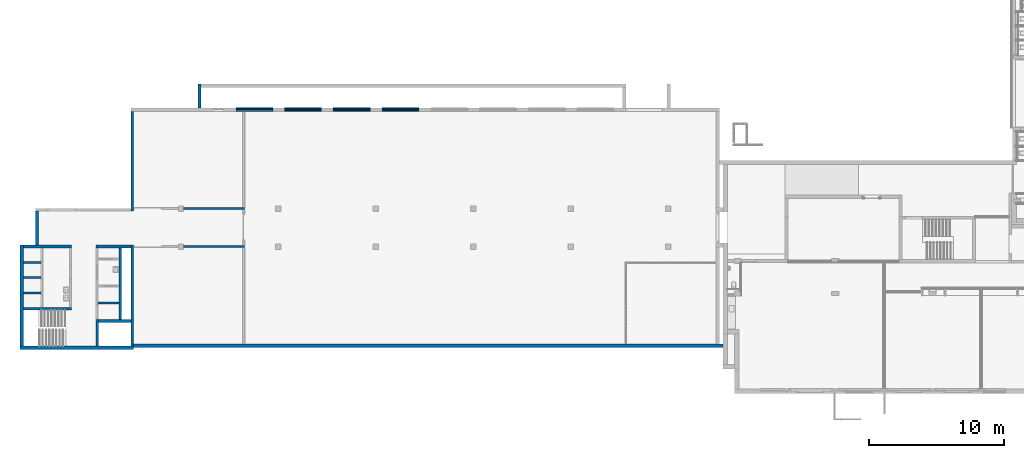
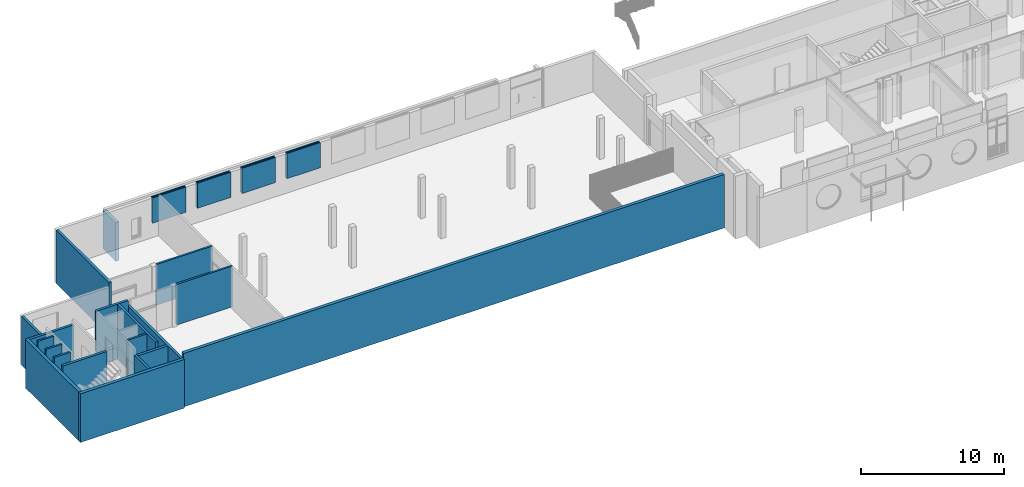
# One storey, part 79 of 135: 27 walls.
"""IFC2X3 building model written with IfcOpenShell, lengths in millimetres."""

from ifc_helpers import new_model, entity, si_unit, converted_unit, derived_unit, money_unit, direction, frame, origin_with_axes, place, context, subcontext, project, spatial, faceted_brep, material, type_object, element, save


model = new_model("IFC2X3")

# Units and contexts
model_context = context("Model", 3, precision=0.01, world=origin_with_axes(), true_north=direction((0.0, 1.0)))
body_context = subcontext(model_context, "Body", "Model", "MODEL_VIEW")
ifc_project = project(units=[si_unit("LENGTHUNIT", "METRE", prefix="MILLI"), si_unit("AREAUNIT", "SQUARE_METRE"), si_unit("VOLUMEUNIT", "CUBIC_METRE"), converted_unit("PLANEANGLEUNIT", "DEGREE", entity("IfcPlaneAngleMeasure", 0.0174532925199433), si_unit("PLANEANGLEUNIT", "RADIAN"), dimensions=[0, 0, 0, 0, 0, 0, 0]), money_unit("EUR"), converted_unit("TIMEUNIT", "Year", entity("IfcTimeMeasure", 31557600.0), si_unit("TIMEUNIT", "SECOND"), dimensions=[0, 0, 1, 0, 0, 0, 0]), si_unit("MASSUNIT", "GRAM", prefix="KILO"), si_unit("THERMODYNAMICTEMPERATUREUNIT", "DEGREE_CELSIUS"), si_unit("LUMINOUSINTENSITYUNIT", "LUMEN"), si_unit("ENERGYUNIT", "JOULE", prefix="MEGA"), derived_unit("THERMALCONDUCTANCEUNIT", [(si_unit("POWERUNIT", "WATT"), 1), (si_unit("LENGTHUNIT", "METRE"), -1), (si_unit("THERMODYNAMICTEMPERATUREUNIT", "KELVIN"), -1)]), derived_unit("SPECIFICHEATCAPACITYUNIT", [(si_unit("ENERGYUNIT", "JOULE"), 1), (si_unit("MASSUNIT", "GRAM", prefix="KILO"), -1), (si_unit("THERMODYNAMICTEMPERATUREUNIT", "KELVIN"), -1)]), derived_unit("MASSDENSITYUNIT", [(si_unit("MASSUNIT", "GRAM", prefix="KILO"), 1), (si_unit("VOLUMEUNIT", "CUBIC_METRE"), -1)])], contexts=[model_context])

# Site, building, storey
site_placement = place(None, origin_with_axes())
site = spatial("IfcSite", under=ifc_project, at=site_placement, Name="Site", CompositionType="ELEMENT")
building_placement = place(site_placement, origin_with_axes())
building = spatial("IfcBuilding", under=site, at=building_placement, Name="Naam gebouw", CompositionType="ELEMENT")
storey_placement = place(building_placement, origin_with_axes())
storey = spatial("IfcBuildingStorey", under=building, at=storey_placement, Name="Begane grond N", CompositionType="ELEMENT", Elevation=0.0)

# Walls
ifc_material_1 = material(Name="ALG - CONSTRUCTIEF")
wall_type_1 = type_object("IfcWallType", Name="ALG - CONSTRUCTIEF 150", PredefinedType="NOTDEFINED")
wall_1_placement = place(storey_placement, frame((-40950.0, 16765.57502437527, 0.0), z_axis=(0.0, 0.0, 1.0), x_axis=(1.0, 0.0, 0.0)))
element("IfcWall", 1, at=wall_1_placement, inside=storey, type_object=wall_type_1, material=ifc_material_1, Name="_Wand-x", context=body_context, shape_type="Brep", body=[
    faceted_brep([(0.0, -74.99999999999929, 3470.0), (4499.999999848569, -74.99999999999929, 3470.0), (4499.999999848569, 74.99999999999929, 3470.0), (0.0, 74.99999999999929, 3470.0), (0.0, -74.99999999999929, 0.0), (4499.999999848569, -74.99999999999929, 0.0), (4499.999999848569, 74.99999999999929, 0.0), (0.0, 74.99999999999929, 0.0)], [[[0, 1, 2, 3]], [[4, 5, 1, 0]], [[6, 2, 1, 5]], [[3, 2, 6, 7]], [[7, 4, 0, 3]], [[7, 6, 5, 4]]]),
])
wall_2_placement = place(storey_placement, frame((-51424.99999999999, 11665.57502436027, -1200.0), z_axis=(0.0, 0.0, 1.0), x_axis=(-1.0, 0.0, 0.0)))
element("IfcWall", 2, at=wall_2_placement, inside=storey, type_object=wall_type_1, material=ifc_material_1, Name="_Wand-x", context=body_context, shape_type="Brep", body=[
    faceted_brep([(1374.999999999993, -74.99999999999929, 0.0), (1374.999999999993, -74.99999999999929, 1000.0), (75.00000000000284, -74.99999999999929, 999.9999999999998), (75.00000000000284, -74.99999999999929, 0.0), (1374.999999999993, 74.99999999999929, 0.0), (1374.999999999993, 74.99999999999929, 1000.0), (75.00000000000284, 74.99999999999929, 1000.0), (75.00000000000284, 74.99999999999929, 0.0)], [[[0, 1, 2, 3]], [[4, 5, 1, 0]], [[5, 6, 2, 1]], [[3, 2, 6, 7]], [[3, 7, 4, 0]], [[7, 6, 5, 4]]]),
    faceted_brep([(75.00000000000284, 75.00000000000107, 4670.000000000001), (75.00000000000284, 74.99999999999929, 1200.0), (75.00000000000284, -74.99999999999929, 1200.0), (75.00000000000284, -74.99999999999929, 4670.0), (1374.999999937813, 75.00000000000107, 4670.0), (1374.999999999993, 74.99999999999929, 1200.0), (1374.999999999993, -74.99999999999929, 1200.0), (1374.99999994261, -74.99999999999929, 4670.0)], [[[0, 1, 2, 3]], [[4, 5, 1, 0]], [[5, 6, 2, 1]], [[3, 2, 6, 7]], [[4, 0, 3, 7]], [[7, 6, 5, 4]]]),
])
wall_3_placement = place(storey_placement, frame((-51424.99999999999, 10528.07502437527, -1200.0), z_axis=(0.0, 0.0, 1.0), x_axis=(-1.0, 0.0, 0.0)))
element("IfcWall", 3, at=wall_3_placement, inside=storey, type_object=wall_type_1, material=ifc_material_1, Name="_Wand-x", context=body_context, shape_type="Brep", body=[
    faceted_brep([(1374.999999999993, -74.99999999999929, 0.0), (1374.999999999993, -74.99999999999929, 1000.0), (75.00000000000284, -74.99999999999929, 999.9999999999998), (75.00000000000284, -74.99999999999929, 0.0), (1374.999999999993, 74.99999999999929, 0.0), (1374.999999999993, 74.99999999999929, 1000.0), (75.00000000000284, 74.99999999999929, 1000.0), (75.00000000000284, 74.99999999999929, 0.0)], [[[0, 1, 2, 3]], [[4, 5, 1, 0]], [[5, 6, 2, 1]], [[3, 2, 6, 7]], [[3, 7, 4, 0]], [[7, 6, 5, 4]]]),
    faceted_brep([(75.00000000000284, 75.00000000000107, 4670.000000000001), (75.00000000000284, 74.99999999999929, 1200.0), (75.00000000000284, -74.99999999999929, 1200.0), (75.00000000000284, -74.99999999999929, 4670.0), (1374.999999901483, 75.00000000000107, 4670.0), (1374.999999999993, 74.99999999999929, 1200.0), (1374.999999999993, -74.99999999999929, 1200.0), (1374.999999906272, -74.99999999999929, 4670.0)], [[[0, 1, 2, 3]], [[4, 5, 1, 0]], [[5, 6, 2, 1]], [[3, 2, 6, 7]], [[4, 0, 3, 7]], [[7, 6, 5, 4]]]),
])
wall_4_placement = place(storey_placement, frame((-51424.99999999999, 12803.07502436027, -1200.0), z_axis=(0.0, 0.0, 1.0), x_axis=(-1.0, 0.0, 0.0)))
element("IfcWall", 4, at=wall_4_placement, inside=storey, type_object=wall_type_1, material=ifc_material_1, Name="_Wand-x", context=body_context, shape_type="Brep", body=[
    faceted_brep([(1374.999999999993, -74.99999999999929, 0.0), (1374.999999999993, -74.99999999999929, 1000.0), (75.00000000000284, -74.99999999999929, 999.9999999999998), (75.00000000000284, -74.99999999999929, 0.0), (1374.999999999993, 74.99999999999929, 0.0), (1374.999999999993, 75.00000000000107, 1000.0), (75.00000000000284, 74.99999999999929, 1000.0), (75.00000000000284, 74.99999999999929, 0.0)], [[[0, 1, 2, 3]], [[4, 5, 1, 0]], [[5, 6, 2, 1]], [[3, 2, 6, 7]], [[3, 7, 4, 0]], [[7, 6, 5, 4]]]),
    faceted_brep([(75.00000000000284, 75.00000000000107, 4670.000000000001), (75.00000000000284, 74.99999999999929, 1200.0), (75.00000000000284, -74.99999999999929, 1200.0), (75.00000000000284, -74.99999999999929, 4670.0), (1374.999999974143, 75.00000000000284, 4670.0), (1374.999999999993, 75.00000000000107, 1200.0), (1374.999999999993, -74.99999999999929, 1200.0), (1374.99999997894, -74.99999999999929, 4670.0)], [[[0, 1, 2, 3]], [[4, 5, 1, 0]], [[5, 6, 2, 1]], [[3, 2, 6, 7]], [[4, 0, 3, 7]], [[7, 6, 5, 4]]]),
])
wall_5_placement = place(storey_placement, frame((-47374.99999999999, 9790.575024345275, -1200.0), z_axis=(0.0, 0.0, 1.0), x_axis=(1.0, 0.0, 0.0)))
element("IfcWall", 5, at=wall_5_placement, inside=storey, type_object=wall_type_1, material=ifc_material_1, Name="_Wand-x", context=body_context, shape_type="Brep", body=[
    faceted_brep([(75.00000000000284, 74.99999999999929, 0.0), (75.00000000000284, 74.99999999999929, 1000.0), (1625.0, 74.99999999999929, 999.9999999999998), (1625.0, 74.99999999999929, 0.0), (75.00000000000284, -74.99999999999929, 0.0), (75.00000000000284, -74.99999999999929, 999.9999999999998), (1625.0, -74.99999999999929, 1000.0), (1625.0, -74.99999999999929, 0.0)], [[[0, 1, 2, 3]], [[4, 5, 1, 0]], [[5, 6, 2, 1]], [[3, 2, 6, 7]], [[0, 3, 7, 4]], [[7, 6, 5, 4]]]),
    faceted_brep([(1625.0, -74.99999999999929, 4670.000000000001), (1625.0, -74.99999999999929, 1200.0), (1625.0, 75.00000000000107, 1200.0), (1625.0, 75.00000000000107, 4670.0), (75.00000000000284, -74.99999999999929, 4670.0), (75.00000000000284, -74.99999999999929, 1200.0), (75.00000000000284, 75.00000000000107, 1200.0), (75.00000000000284, 75.00000000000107, 4670.000000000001)], [[[0, 1, 2, 3]], [[4, 5, 1, 0]], [[5, 6, 2, 1]], [[3, 2, 6, 7]], [[4, 0, 3, 7]], [[7, 6, 5, 4]]]),
])
wall_6_placement = place(storey_placement, frame((-36450.00000015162, 13961.95611936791, 0.0), z_axis=(0.0, 0.0, 1.0), x_axis=(-0.9999996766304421, 0.0008042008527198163, 0.0)))
element("IfcWall", 6, at=wall_6_placement, inside=storey, type_object=wall_type_1, material=ifc_material_1, Name="_Wand-x", context=body_context, shape_type="Brep", body=[
    faceted_brep([(4500.001455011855, -74.99999999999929, 0.0), (4500.001455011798, 7.725020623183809e-08, 0.0), (4500.001455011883, -3.433164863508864e-08, 3470.0), (4500.001455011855, -74.99999999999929, 3470.0), (-0.06031508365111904, 75.00000000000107, 0.0), (4499.941139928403, 75.00000000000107, 0.0), (0.06031508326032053, -75.00000000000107, 0.0), (4499.941139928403, 75.00000000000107, 3470.0), (-0.06031508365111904, 75.00000000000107, 3470.0), (0.06031508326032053, -74.99999999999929, 3470.0)], [[[0, 1, 2, 3]], [[4, 5, 1, 0, 6]], [[5, 7, 2, 1]], [[3, 2, 7, 8, 9]], [[9, 6, 0, 3]], [[8, 7, 5, 4]], [[4, 6, 9, 8]]]),
])
wall_type_2 = type_object("IfcWallType", Name="ALG - CONSTRUCTIEF 200", PredefinedType="NOTDEFINED")
wall_7_placement = place(storey_placement, frame((-44749.99999999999, 6365.575024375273, -1200.0), z_axis=(0.0, 0.0, 1.0), x_axis=(0.0, 1.0, 0.0)))
element("IfcWall", 7, at=wall_7_placement, inside=storey, type_object=wall_type_2, material=ifc_material_1, Name="_Wand-x", context=body_context, shape_type="Brep", body=[
    faceted_brep([(7699.999999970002, -100.0000000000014, 1000.0), (7499.999999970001, -100.0000000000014, 1000.0), (7499.999999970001, -100.0000000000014, 1200.0), (7699.999999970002, -100.0000000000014, 1200.0), (7699.99999997, -100.0000000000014, 4150.0), (250.0, -100.0000000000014, 4150.0), (250.0, -100.0000000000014, 0.0), (7699.999999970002, -100.0000000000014, 0.0), (7499.999999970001, 100.0000000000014, 1000.0), (7699.999999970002, 100.0000000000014, 999.9999999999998), (7499.999999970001, 100.0000000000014, 1200.0), (7699.999999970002, 100.0000000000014, 1200.0), (7699.99999997, 100.0000000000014, 4150.0), (250.0, 100.0000000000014, 4150.0), (250.0, 100.0000000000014, 0.0), (7699.999999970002, 100.0000000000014, 0.0)], [[[0, 1, 2, 3, 4, 5, 6, 7]], [[8, 1, 0, 9]], [[10, 2, 1, 8]], [[10, 11, 3, 2]], [[4, 3, 11, 12]], [[4, 12, 13, 5]], [[13, 14, 6, 5]], [[15, 7, 6, 14]], [[15, 9, 0, 7]], [[10, 8, 9, 15, 14, 13, 12, 11]]]),
])
wall_8_placement = place(storey_placement, frame((-51799.99999999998, 16690.57502431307, -1200.0), z_axis=(0.0, 0.0, 1.0), x_axis=(0.0, -1.0, 0.0)))
element("IfcWall", 8, at=wall_8_placement, inside=storey, type_object=wall_type_2, material=ifc_material_1, Name="_Wand-x", context=body_context, shape_type="Brep", body=[
    faceted_brep([(99.99999993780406, -100.0000000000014, 4150.0), (2624.999999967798, -100.0000000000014, 4150.0), (2624.999999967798, 100.0000000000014, 4150.0), (99.99999993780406, 100.0000000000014, 4150.0), (99.99999993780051, -100.0000000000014, 0.0), (2624.999999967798, -100.0000000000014, 0.0), (2624.999999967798, 100.0000000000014, 0.0), (99.99999993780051, 100.0000000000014, 0.0)], [[[0, 1, 2, 3]], [[4, 5, 1, 0]], [[5, 6, 2, 1]], [[3, 2, 6, 7]], [[4, 0, 3, 7]], [[7, 6, 5, 4]]]),
])
wall_9_placement = place(storey_placement, frame((-47349.99999999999, 8465.505143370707, -1200.0), z_axis=(0.0, 0.0, 1.0), x_axis=(1.0, 0.0, 0.0)))
element("IfcWall", 9, at=wall_9_placement, inside=storey, type_object=wall_type_2, material=ifc_material_1, Name="_Wand-x", context=body_context, shape_type="Brep", body=[
    faceted_brep([(100.0000000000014, 99.99999999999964, 0.0), (100.0000000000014, 99.99999999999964, 1000.0), (1799.999999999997, 99.99999999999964, 1000.0), (1799.999999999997, 99.99999999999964, 1200.0), (100.0000000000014, 99.99999999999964, 1200.0), (100.0000000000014, 99.99999999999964, 4150.0), (2499.999999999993, 99.99999999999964, 4150.0), (2499.999999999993, 99.99999999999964, 0.0), (100.0000000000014, -99.99999999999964, 0.0), (100.0000000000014, -99.99999999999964, 1000.0), (1799.999999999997, -99.99999999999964, 1000.0), (1799.999999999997, -99.99999999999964, 1200.0), (100.0000000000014, -99.99999999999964, 1200.0), (100.0000000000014, -99.99999999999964, 4150.0), (2499.999999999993, -99.99999999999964, 4150.0), (2499.999999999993, -99.99999999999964, 0.0)], [[[0, 1, 2, 3, 4, 5, 6, 7]], [[8, 9, 1, 0]], [[10, 2, 1, 9]], [[11, 3, 2, 10]], [[12, 4, 3, 11]], [[5, 4, 12, 13]], [[14, 6, 5, 13]], [[14, 15, 7, 6]], [[7, 15, 8, 0]], [[11, 10, 9, 8, 15, 14, 13, 12]]]),
])
wall_10_placement = place(storey_placement, frame((-47349.99999999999, 6365.575024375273, -1200.0), z_axis=(0.0, 0.0, 1.0), x_axis=(0.0, 1.0, 0.0)))
element("IfcWall", 10, at=wall_10_placement, inside=storey, type_object=wall_type_2, material=ifc_material_1, Name="_Wand-x", context=body_context, shape_type="Brep", body=[
    faceted_brep([(2199.930118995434, -100.0000000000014, 1000.0), (1999.930118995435, -100.0000000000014, 1000.0), (1999.930118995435, -100.0000000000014, 1200.0), (2199.930118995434, -100.0000000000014, 1200.0), (2199.930118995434, -100.0000000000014, 4150.0), (250.0, -100.0000000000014, 4150.0), (250.0, -100.0000000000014, 0.0), (2199.930118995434, -100.0000000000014, 0.0), (1999.930118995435, 100.0000000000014, 1000.0), (2199.930118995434, 100.0000000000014, 999.9999999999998), (1999.930118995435, 100.0000000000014, 1200.0), (2199.930118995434, 100.0000000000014, 1200.0), (2199.930118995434, 99.99999999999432, 4150.0), (250.0, 100.0000000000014, 4150.0), (250.0, 100.0000000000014, 0.0), (2199.930118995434, 100.0000000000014, 0.0)], [[[0, 1, 2, 3, 4, 5, 6, 7]], [[8, 1, 0, 9]], [[10, 2, 1, 8]], [[10, 11, 3, 2]], [[4, 3, 11, 12]], [[12, 13, 5, 4]], [[13, 14, 6, 5]], [[15, 7, 6, 14]], [[15, 9, 0, 7]], [[10, 8, 9, 15, 14, 13, 12, 11]]]),
])
wall_11_placement = place(storey_placement, frame((-44750.00000008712, 16690.57502437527, -1200.0), z_axis=(0.0, 0.0, 1.0), x_axis=(0.0, 1.0, 0.0)))
element("IfcWall", 11, at=wall_11_placement, inside=storey, type_object=wall_type_2, material=ifc_material_1, Name="_Wand-x", context=body_context, shape_type="Brep", body=[
    faceted_brep([(7274.999999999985, -100.0000000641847, 4560.000000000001), (7275.000000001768, 99.9999999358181, 4560.000000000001), (-99.99999999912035, 100.0000000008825, 4560.000000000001), (-100.000000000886, -99.99999999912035, 4560.000000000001), (7275.000000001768, 99.9999999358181, 0.0), (7274.999999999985, -100.0000000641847, 0.0), (-99.99999999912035, 100.0000000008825, 0.0), (-100.000000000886, -99.99999999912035, 0.0)], [[[0, 1, 2, 3]], [[4, 1, 0, 5]], [[4, 6, 2, 1]], [[6, 7, 3, 2]], [[5, 0, 3, 7]], [[4, 5, 7, 6]]]),
])
wall_12_placement = place(storey_placement, frame((-53049.99999999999, 13965.57502434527, -1200.0), z_axis=(0.0, 0.0, 1.0), x_axis=(1.0, 0.0, 0.0)))
element("IfcWall", 12, at=wall_12_placement, inside=storey, type_object=wall_type_2, material=ifc_material_1, Name="_Wand-x", context=body_context, shape_type="Brep", body=[
    faceted_brep([(3799.999999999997, -99.99999999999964, 4150.0), (3799.999999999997, -99.99999999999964, 1200.0), (3799.999999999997, 99.99999999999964, 1200.0), (3799.999999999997, 99.99999999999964, 4150.0), (1350.000000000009, -99.99999999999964, 1000.0), (1350.000000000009, -99.99999999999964, 1200.0), (250.0, -99.99999999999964, 4150.0), (250.0, -99.99999999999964, 0.0), (3799.999999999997, -99.99999999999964, 0.0), (3799.999999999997, -99.99999999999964, 1000.0), (1350.000000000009, 99.99999999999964, 1200.0), (1350.000000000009, 99.99999999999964, 1000.0), (3799.999999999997, 99.99999999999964, 999.9999999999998), (3799.999999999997, 99.99999999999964, 0.0), (250.0, 99.99999999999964, 0.0), (250.0, 99.99999999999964, 4150.0)], [[[0, 1, 2, 3]], [[4, 5, 1, 0, 6, 7, 8, 9]], [[5, 10, 2, 1]], [[10, 11, 12, 13, 14, 15, 3, 2]], [[15, 6, 0, 3]], [[4, 11, 10, 5]], [[14, 7, 6, 15]], [[7, 14, 13, 8]], [[13, 12, 9, 8]], [[4, 9, 12, 11]]]),
])
wall_13_placement = place(storey_placement, frame((-53049.99999999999, 9365.575024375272, -1200.0), z_axis=(0.0, 0.0, 1.0), x_axis=(1.0, 0.0, 0.0)))
element("IfcWall", 13, at=wall_13_placement, inside=storey, type_object=wall_type_2, material=ifc_material_1, Name="_Wand-x", context=body_context, shape_type="Brep", body=[
    faceted_brep([(3799.999999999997, -99.99999999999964, 4670.000000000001), (3799.999999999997, -99.99999999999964, 1200.0), (3799.999999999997, 100.0000000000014, 1200.0), (3799.999999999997, 100.0000000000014, 4670.0), (3386.263204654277, -100.0000000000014, 1000.0), (3386.263204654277, -100.0000000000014, 1200.0), (3386.263204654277, -99.99999999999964, 4670.0), (250.0000001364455, -100.000000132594, 4670.0), (250.0, -99.99999999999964, 0.0), (3799.999999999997, -99.99999999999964, 0.0), (3799.999999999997, -99.99999999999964, 1000.0), (250.0, 99.99999999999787, 1200.0), (3386.263204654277, -94.69600976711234, 1200.0), (250.0, -94.69600976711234, 1200.0), (250.0000001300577, 99.99999999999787, 4670.0), (3386.263204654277, -94.69600976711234, 1000.0), (250.0, -94.69600976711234, 1000.0), (250.0, 99.99999999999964, 1000.0), (250.0, 99.99999999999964, 0.0), (3799.999999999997, 99.99999999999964, 0.0), (3799.999999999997, 99.99999999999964, 999.9999999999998)], [[[0, 1, 2, 3]], [[4, 5, 1, 0, 6, 7, 8, 9, 10]], [[11, 2, 1, 5, 12, 13]], [[3, 2, 11, 14]], [[7, 6, 0, 3, 14]], [[4, 15, 12, 5]], [[13, 16, 17, 18, 8, 7, 14, 11]], [[19, 9, 8, 18]], [[19, 20, 10, 9]], [[16, 15, 4, 10, 20, 17]], [[13, 12, 15, 16]], [[17, 20, 19, 18]]]),
])
wall_14_placement = place(storey_placement, frame((-45649.99999999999, 8465.505143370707, -1200.0), z_axis=(0.0, 0.0, 1.0), x_axis=(0.0, 1.0, 0.0)))
element("IfcWall", 14, at=wall_14_placement, inside=storey, type_object=wall_type_2, material=ifc_material_1, Name="_Wand-x", context=body_context, shape_type="Brep", body=[
    faceted_brep([(5400.069880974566, 100.0000000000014, 0.0), (5400.069880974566, 100.0000000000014, 999.9999999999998), (5400.069880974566, -100.0000000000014, 1000.0), (5400.069880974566, -100.0000000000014, 0.0), (99.99999999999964, 100.0000000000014, 0.0), (99.99999999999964, 100.0000000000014, 1000.0), (99.99999999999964, -100.0000000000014, 1000.0), (99.99999999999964, -100.0000000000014, 0.0)], [[[0, 1, 2, 3]], [[4, 5, 1, 0]], [[5, 6, 2, 1]], [[3, 2, 6, 7]], [[0, 3, 7, 4]], [[7, 6, 5, 4]]]),
    faceted_brep([(99.99999999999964, -100.0000007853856, 4670.0), (99.99999999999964, -100.0000000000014, 1200.0), (5400.069880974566, -100.0000000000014, 1200.0), (5400.06988096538, -100.0000000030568, 4670.0), (99.99999999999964, 100.0000000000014, 4670.000000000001), (99.99999999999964, 100.0000000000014, 1200.0), (5400.069880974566, 100.0000000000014, 1200.0), (5400.069880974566, 100.0000000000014, 4670.0)], [[[0, 1, 2, 3]], [[4, 5, 1, 0]], [[5, 6, 2, 1]], [[3, 2, 6, 7]], [[4, 0, 3, 7]], [[7, 6, 5, 4]]]),
])
wall_15_placement = place(storey_placement, frame((-47374.99999999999, 13965.57502434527, -1200.0), z_axis=(0.0, 0.0, 1.0), x_axis=(1.0, 0.0, 0.0)))
element("IfcWall", 15, at=wall_15_placement, inside=storey, type_object=wall_type_2, material=ifc_material_1, Name="_Wand-x", context=body_context, shape_type="Brep", body=[
    faceted_brep([(-75.00000000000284, 99.99999999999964, 0.0), (-75.00000000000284, 99.99999999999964, 1000.0), (2524.999999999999, 100.0000000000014, 999.9999999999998), (2524.999999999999, 100.0000000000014, 0.0), (-75.00000000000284, -99.99999999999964, 0.0), (-75.00000000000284, -99.99999999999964, 999.9999999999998), (2524.999999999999, -99.99999999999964, 1000.0), (1825.000000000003, -99.99999999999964, 1000.0), (2524.999999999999, -99.99999999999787, 0.0)], [[[0, 1, 2, 3]], [[4, 5, 1, 0]], [[6, 2, 1, 5, 7]], [[3, 2, 6, 8]], [[4, 0, 3, 8]], [[7, 5, 4, 8, 6]]]),
    faceted_brep([(2524.999999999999, -99.99999999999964, 1200.0), (1825.000000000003, -99.99999999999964, 1200.0), (-75.00000000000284, -99.99999999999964, 1200.0), (-75.00000000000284, 99.99999999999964, 1200.0), (2524.999999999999, 100.0000000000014, 1200.0), (-75.00000000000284, -99.99999999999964, 4670.0), (2524.999999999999, -99.99999992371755, 4670.0), (1825.000000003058, -100.0000000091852, 4670.0), (-75.00000000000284, 99.99999999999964, 4670.000000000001), (2524.999999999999, 99.99999999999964, 4670.0)], [[[0, 1, 2, 3, 4]], [[5, 2, 1, 0, 6, 7]], [[8, 3, 2, 5]], [[4, 3, 8, 9]], [[6, 0, 4, 9]], [[6, 9, 8, 5, 7]]]),
])
wall_type_3 = type_object("IfcWallType", Name="ALG - CONSTRUCTIEF 250", PredefinedType="NOTDEFINED")
wall_16_placement = place(storey_placement, frame((-770.0388143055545, 6765.575024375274, -1200.0), z_axis=(0.0, 0.0, 1.0), x_axis=(-1.0, 0.0, 0.0)))
element("IfcWall", 16, at=wall_16_placement, inside=storey, type_object=wall_type_3, material=ifc_material_1, Name="_Wand-x", context=body_context, shape_type="Brep", body=[
    faceted_brep([(43879.96118569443, 0.0, 0.0), (43879.96118569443, 0.0, 4560.000000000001), (329.9999999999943, 0.0, 4560.000000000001), (329.9999999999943, 0.0, 0.0), (43879.96118569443, 249.9999999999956, 0.0), (43879.96118569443, 249.9999999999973, 4560.000000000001), (329.9999999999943, 250.0, 4560.000000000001), (329.9999999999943, 250.0, 0.0)], [[[0, 1, 2, 3]], [[4, 5, 1, 0]], [[2, 1, 5, 6]], [[6, 7, 3, 2]], [[7, 4, 0, 3]], [[6, 5, 4, 7]]]),
])
wall_17_placement = place(storey_placement, frame((-39903.75968605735, 23965.57502437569, -1200.0), z_axis=(0.0, 0.0, 1.0), x_axis=(-0.0001569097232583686, 0.9999999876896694, 0.0)))
element("IfcWall", 17, at=wall_17_placement, inside=storey, type_object=wall_type_3, material=ifc_material_1, Name="_Wand-x", context=body_context, shape_type="Brep", body=[
    faceted_brep([(2000.754322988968, 0.0, 0.0), (2000.71509555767, -250.0000000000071, 0.0), (249.9607756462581, -250.0000000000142, 0.0), (250.0000030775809, 0.0, 0.0), (2000.754322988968, 0.0, 3300.0), (2000.71509555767, -250.0000000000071, 3300.0), (249.9607756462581, -250.0000000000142, 3300.0), (250.0000030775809, 0.0, 3300.0)], [[[0, 1, 2, 3]], [[1, 0, 4, 5]], [[1, 5, 6, 2]], [[7, 3, 2, 6]], [[4, 0, 3, 7]], [[5, 4, 7, 6]]]),
])
wall_18_placement = place(storey_placement, frame((-53049.99999999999, 13965.57502434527, -1200.0), z_axis=(0.0, 0.0, 1.0), x_axis=(0.0, -1.0, 0.0)))
element("IfcWall", 18, at=wall_18_placement, inside=storey, type_object=wall_type_3, material=ifc_material_1, Name="_Wand-x", context=body_context, shape_type="Brep", body=[
    faceted_brep([(7349.999999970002, 0.0, 4150.0), (7349.999999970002, 250.0, 4150.0), (-99.99999999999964, 250.0, 4150.0), (-99.99999999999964, 0.0, 4150.0), (7349.999999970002, 0.0, 0.0), (7349.999999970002, 250.0, 0.0), (-99.99999999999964, 250.0, 0.0), (-99.99999999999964, 0.0, 0.0)], [[[0, 1, 2, 3]], [[1, 0, 4, 5]], [[1, 5, 6, 2]], [[7, 3, 2, 6]], [[4, 0, 3, 7]], [[5, 4, 7, 6]]]),
])
wall_19_placement = place(storey_placement, frame((-44649.99999999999, 6365.575024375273, -1200.0), z_axis=(0.0, 0.0, 1.0), x_axis=(-1.0, 0.0, 0.0)))
element("IfcWall", 19, at=wall_19_placement, inside=storey, type_object=wall_type_3, material=ifc_material_1, Name="_Wand-x", context=body_context, shape_type="Brep", body=[
    faceted_brep([(8399.99999999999, -250.0000000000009, 0.0), (8399.99999999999, -250.0000000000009, 4150.0), (0.0, -250.0, 4150.0), (0.0, -250.0, 0.0), (8399.99999999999, 0.0, 0.0), (8399.99999999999, 0.0, 4150.0), (0.0, 0.0, 4150.0), (0.0, 0.0, 0.0)], [[[0, 1, 2, 3]], [[4, 5, 1, 0]], [[5, 6, 2, 1]], [[3, 2, 6, 7]], [[3, 7, 4, 0]], [[7, 6, 5, 4]]]),
])
ifc_material_2 = material(Name="Steen - Betonblok")
wall_type_4 = type_object("IfcWallType", Name="Steen - Betonblok 100", PredefinedType="NOTDEFINED")
wall_20_placement = place(storey_placement, frame((-23564.27964435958, 23965.57502437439, 1210.0), z_axis=(0.0, 0.0, 1.0), x_axis=(-1.0, 0.0, 0.0)))
element("IfcWall", 20, at=wall_20_placement, inside=storey, type_object=wall_type_4, material=ifc_material_2, Name="_Wand-x", context=body_context, shape_type="Brep", body=[
    faceted_brep([(0.0, 0.0, 0.0), (2700.000000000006, 0.0, 0.0), (2700.000000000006, -100.0000000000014, 0.0), (0.0, -100.0000000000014, 0.0), (0.0, 0.0, 2150.0), (2700.000000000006, 0.0, 2150.0), (2700.000000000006, -100.0000000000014, 2150.0), (0.0, -100.0000000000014, 2150.0)], [[[0, 1, 2, 3]], [[4, 5, 1, 0]], [[2, 1, 5, 6]], [[3, 2, 6, 7]], [[4, 0, 3, 7]], [[7, 6, 5, 4]]]),
])
wall_21_placement = place(storey_placement, frame((-23564.27964435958, 24215.57502437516, 1210.0), z_axis=(0.0, 0.0, 1.0), x_axis=(-1.0, 0.0, 0.0)))
element("IfcWall", 21, at=wall_21_placement, inside=storey, type_object=wall_type_4, material=ifc_material_2, Name="_Wand-x", context=body_context, shape_type="Brep", body=[
    faceted_brep([(0.0, 0.0, 2150.0), (2700.000000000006, 0.0, 2150.0), (2700.000000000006, 100.0000000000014, 2150.0), (0.0, 100.0000000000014, 2150.0), (0.0, 0.0, 0.0), (2700.000000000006, 0.0, 0.0), (2700.000000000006, 100.0000000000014, 0.0), (0.0, 100.0000000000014, 0.0)], [[[0, 1, 2, 3]], [[4, 5, 1, 0]], [[2, 1, 5, 6]], [[3, 2, 6, 7]], [[4, 0, 3, 7]], [[7, 6, 5, 4]]]),
])
wall_22_placement = place(storey_placement, frame((-34379.34740269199, 23965.57502437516, 1210.0), z_axis=(0.0, 0.0, 1.0), x_axis=(-1.0, 0.0, 0.0)))
element("IfcWall", 22, at=wall_22_placement, inside=storey, type_object=wall_type_4, material=ifc_material_2, Name="_Wand-x", context=body_context, shape_type="Brep", body=[
    faceted_brep([(0.0, -100.0000000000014, 2150.0), (2700.000000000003, -100.0000000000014, 2150.0), (2700.000000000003, 0.0, 2150.0), (0.0, 0.0, 2150.0), (0.0, -100.0000000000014, 0.0), (2700.000000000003, -100.0000000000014, 0.0), (2700.000000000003, 0.0, 0.0), (0.0, 0.0, 0.0)], [[[0, 1, 2, 3]], [[4, 5, 1, 0]], [[2, 1, 5, 6]], [[3, 2, 6, 7]], [[4, 0, 3, 7]], [[7, 6, 5, 4]]]),
])
for number, where, z_axis, x_axis, name in (
    (23, (-30779.34748621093, 23965.57502437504, 1210.0), (0.0, 0.0, 1.0), (-1.0, 0.0, 0.0), "_Wand-x"),
    (24, (-27179.34748621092, 23965.5750243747, 1210.0), (0.0, 0.0, 1.0), (-1.0, 0.0, 0.0), "_Wand-x"),
):
    element("IfcWall", number, at=place(storey_placement, frame(where, z_axis=z_axis, x_axis=x_axis)), inside=storey, type_object=wall_type_4, material=ifc_material_2, Name=name, context=body_context, shape_type="Brep", body=[
        faceted_brep([(0.0, 0.0, 0.0), (2700.000000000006, 0.0, 0.0), (2700.000000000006, -100.0000000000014, 0.0), (0.0, -100.0000000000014, 0.0), (0.0, 0.0, 2150.0), (2700.000000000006, 0.0, 2150.0), (2700.000000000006, -100.0000000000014, 2150.0), (0.0, -100.0000000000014, 2150.0)], [[[0, 1, 2, 3]], [[4, 5, 1, 0]], [[2, 1, 5, 6]], [[3, 2, 6, 7]], [[4, 0, 3, 7]], [[7, 6, 5, 4]]]),
    ])
for number, where, z_axis, x_axis, name in (
    (25, (-30779.34748621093, 24215.57502437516, 1210.0), (0.0, 0.0, 1.0), (-1.0, 0.0, 0.0), "_Wand-x"),
    (26, (-27179.34748621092, 24215.57502437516, 1210.0), (0.0, 0.0, 1.0), (-1.0, 0.0, 0.0), "_Wand-x"),
):
    element("IfcWall", number, at=place(storey_placement, frame(where, z_axis=z_axis, x_axis=x_axis)), inside=storey, type_object=wall_type_4, material=ifc_material_2, Name=name, context=body_context, shape_type="Brep", body=[
        faceted_brep([(0.0, 0.0, 2150.0), (2700.000000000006, 0.0, 2150.0), (2700.000000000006, 100.0000000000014, 2150.0), (0.0, 100.0000000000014, 2150.0), (0.0, 0.0, 0.0), (2700.000000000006, 0.0, 0.0), (2700.000000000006, 100.0000000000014, 0.0), (0.0, 100.0000000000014, 0.0)], [[[0, 1, 2, 3]], [[4, 5, 1, 0]], [[2, 1, 5, 6]], [[3, 2, 6, 7]], [[4, 0, 3, 7]], [[7, 6, 5, 4]]]),
    ])
wall_23_placement = place(storey_placement, frame((-34379.34740269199, 24215.57502437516, 1210.0), z_axis=(0.0, 0.0, 1.0), x_axis=(-1.0, 0.0, 0.0)))
element("IfcWall", 27, at=wall_23_placement, inside=storey, type_object=wall_type_4, material=ifc_material_2, Name="_Wand-x", context=body_context, shape_type="Brep", body=[
    faceted_brep([(0.0, 0.0, 2150.0), (2700.000000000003, 0.0, 2150.0), (2700.000000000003, 100.0000000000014, 2150.0), (0.0, 100.0000000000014, 2150.0), (0.0, 0.0, 0.0), (2700.000000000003, 0.0, 0.0), (2700.000000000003, 100.0000000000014, 0.0), (0.0, 100.0000000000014, 0.0)], [[[0, 1, 2, 3]], [[4, 5, 1, 0]], [[2, 1, 5, 6]], [[3, 2, 6, 7]], [[4, 0, 3, 7]], [[7, 6, 5, 4]]]),
])

save(model, "model.ifc")
